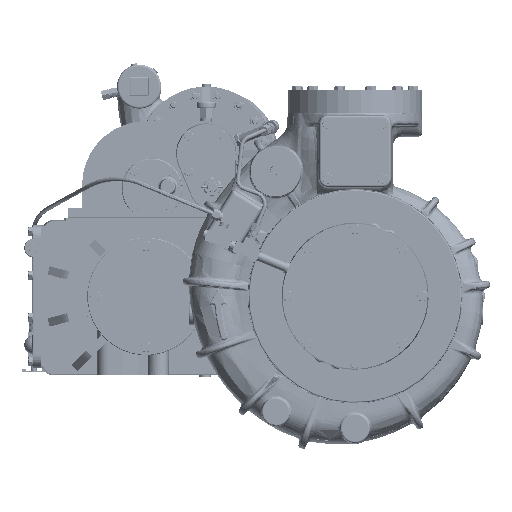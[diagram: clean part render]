
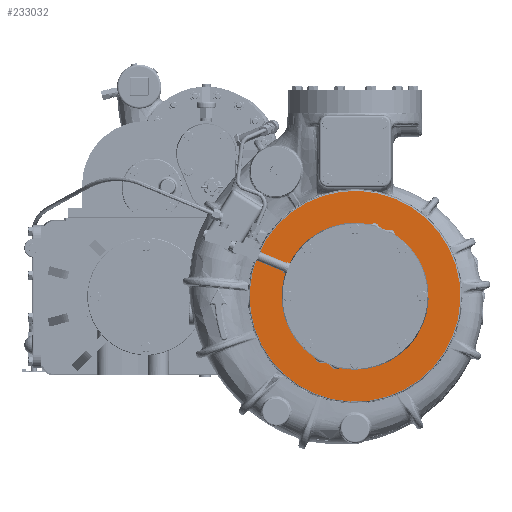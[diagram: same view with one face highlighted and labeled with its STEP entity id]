
A CAD part, top view. The second image highlights one B-rep face of the part: STEP entity #233032.
In plain terms, the highlighted planar face has unit normal (0, 0, 1).
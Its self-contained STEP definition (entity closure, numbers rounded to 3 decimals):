
#232369=CARTESIAN_POINT('',(0.,0.001,
5.437));
#232370=DIRECTION('',(0.,0.,1.));
#232371=DIRECTION('',(0.383,0.924,0.));
#232372=AXIS2_PLACEMENT_3D('',#232369,#232370,#232371);
#232374=CARTESIAN_POINT('',(0.,0.001,
5.437));
#232375=DIRECTION('',(0.,0.,
-1.));
#232376=DIRECTION('',(0.383,0.924,0.));
#232377=AXIS2_PLACEMENT_3D('',#232374,#232375,#232376);
#232906=CARTESIAN_POINT('',(2.399,5.792,
5.436));
#232908=VERTEX_POINT('',#232906);
#232910=CARTESIAN_POINT('',(-2.398,-5.79,
5.438));
#232912=VERTEX_POINT('',#232910);
#233022=CARTESIAN_POINT('',(0.,0.001,
5.437));
#233023=DIRECTION('',(0.,0.,
-1.));
#233024=DIRECTION('',(-0.383,-0.924,0.));
#233025=AXIS2_PLACEMENT_3D('',#233022,#233023,#233024);
#233026=PLANE('',#233025);
#233028=ORIENTED_EDGE('',*,*,#233027,.F.);
#233029=ORIENTED_EDGE('',*,*,#233017,.T.);
#233030=EDGE_LOOP('',(#233028,#233029));
#233031=FACE_OUTER_BOUND('',#233030,.F.);
#233032=ADVANCED_FACE('',(#233031),#233026,.F.);
#232373=CIRCLE('',#232372,6.268);
#232378=CIRCLE('',#232377,6.268);
#233017=EDGE_CURVE('',#232908,#232912,#232378,.T.);
#233027=EDGE_CURVE('',#232908,#232912,#232373,.T.);
